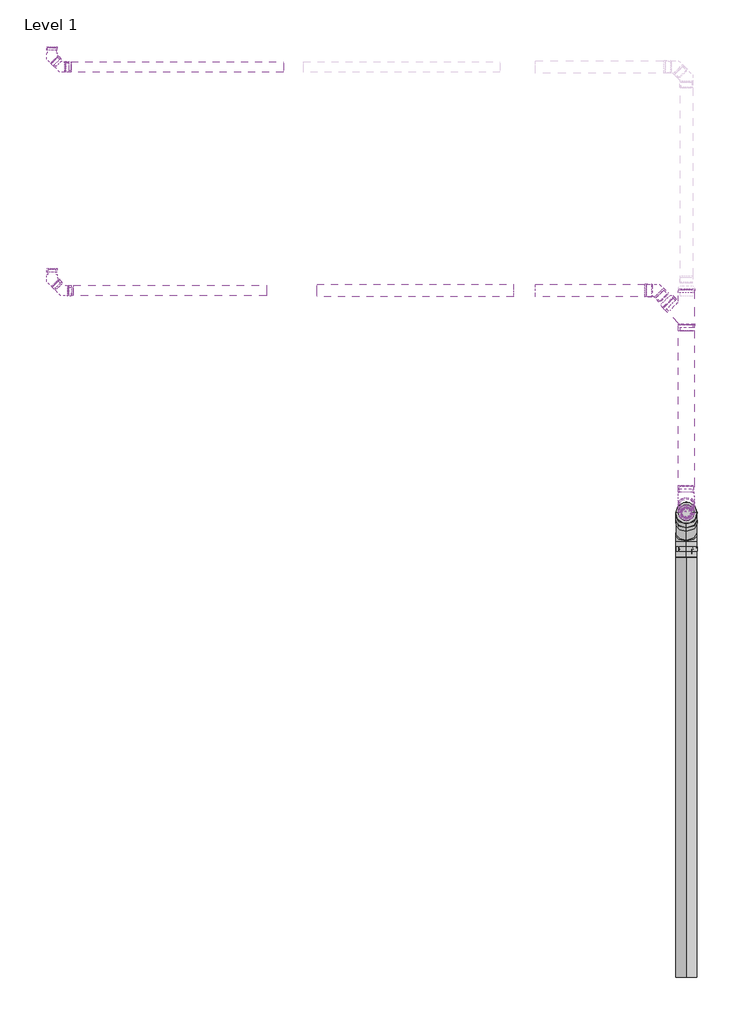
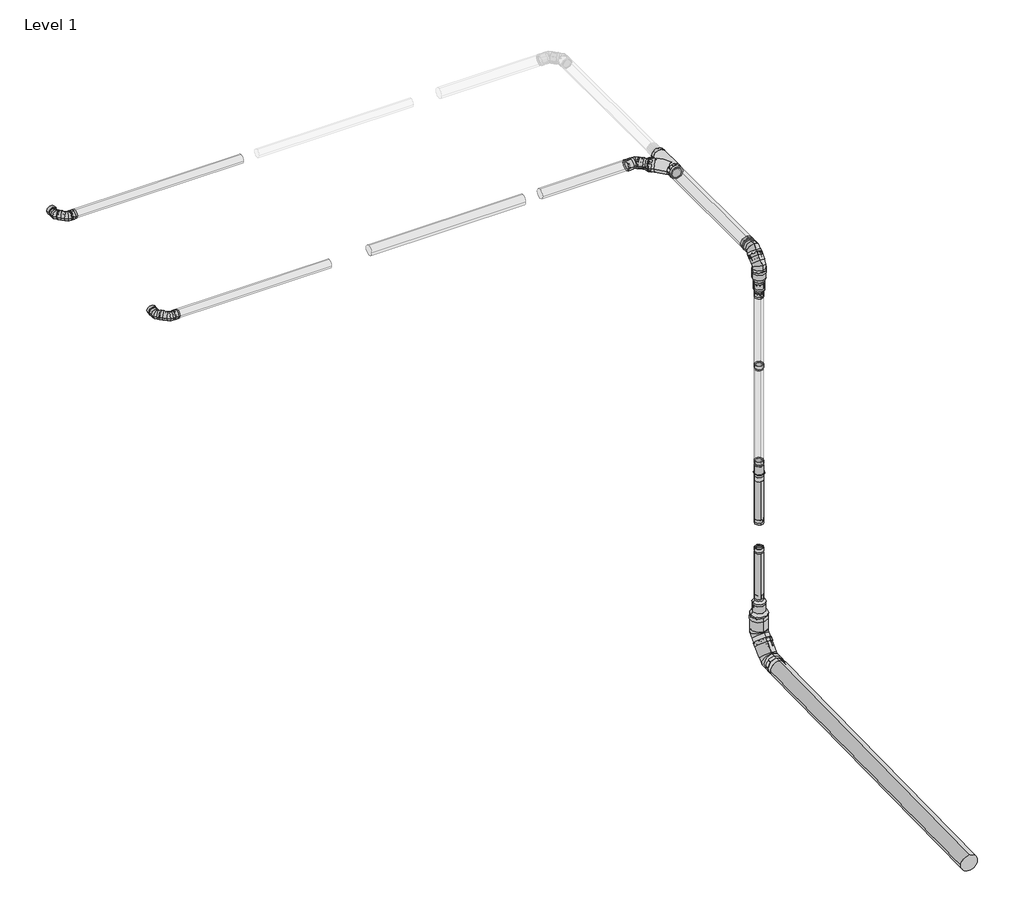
# One storey, part 1 of 4: 71 pipe fittings, 10 pipe segments.
"""IFC4 building model written with IfcOpenShell, lengths in millimetres."""

from ifc_helpers import new_model, si_unit, point, frame, frame_2d, origin, place, context, project, spatial, circle_curve, trimmed, segment, composite_curve, outline, extrude, transform, mapped, element, save
from components import double_bend_3e9cfc50, double_bend_64b3920a, double_bend_6fd856f4, equal_f502bca4, std_98267aa1, std_b06a406c, std_nested_0b312e5a, std_nested_a7162979, std_nested_457d7e35, std_nested_42e1da43, std_nested_bf630df5, std_nested_ff61fb87, std_nested_46ab66b3, std_nested_90d89c33, std_nested_0b754541, std_nested_c6ab956b, std_nested_eab692b6, std_nested_f8058470, std_nested_a1955cf2, std_nested_11fffc4d, std_nested_b89ce39c, std_nested_ddf6da25, std_nested_2c747ea0, std_nested_3dcc5080, std_nested_d6aa968b, std_nested_bd9adc5b, std_nested_d6c17223, std_nested_c8d892e3, std_nested_4c6f7b31, std_nested_5f0271a8, std_nested_e47e38a7, std_nested_9446fb41, std_nested_f2eee662, std_nested_7e47c5b0, std_nested_4907b57b, std_nested_7b649233, std_nested_dd37de27, with_clamp_eb68ef93

model = new_model("IFC4")

# Units and contexts
model_context = context("Model", 3, world=origin())
ifc_project = project(units=[si_unit("LENGTHUNIT", "METRE", prefix="MILLI")], contexts=[model_context])

# Site, building, storey
site = spatial("IfcSite", under=ifc_project)
building = spatial("IfcBuilding", under=site)
storey = spatial("IfcBuildingStorey", under=building, Name="Level 1", Elevation=0.0)

# Pipe fittings
placement = place(None, origin())
double_bend_shape = double_bend_3e9cfc50(model_context)
element("IfcPipeFitting", 1, ObjectType="PIF_ST_UN_GM-X compound pipe multi-bend_ACO : double bend", at=placement, inside=storey, context=model_context, shape_type="MappedRepresentation", body=[
    mapped(double_bend_shape, transform((-17814.684142, 5223.6615366, 6367.4522786), x_axis=(0.0, -1.0, 0.0), y_axis=(1.0, 0.0, 0.0), z_axis=(0.0, 0.0, 1.0))),
])
double_bend_2_shape = double_bend_64b3920a(model_context)
element("IfcPipeFitting", 2, ObjectType="PIF_ST_UN_GM-X compound pipe multi-bend_ACO : double bend", at=placement, inside=storey, context=model_context, shape_type="MappedRepresentation", body=[
    mapped(double_bend_2_shape, transform((-17814.684142, 2334.1079251, 6367.4522786), x_axis=(0.0, -1.0, 0.0), y_axis=(1.0, 0.0, 0.0), z_axis=(0.0, 0.0, 1.0))),
])
double_bend_3_shape = double_bend_6fd856f4(model_context)
element("IfcPipeFitting", 3, ObjectType="PIF_ST_UN_GM-X compound pipe multi-bend_ACO : double bend", at=placement, inside=storey, context=model_context, shape_type="MappedRepresentation", body=[
    mapped(double_bend_3_shape, transform((-9614.684142, -535.228078, -500.0), x_axis=(0.0, 0.0, -1.0), y_axis=(0.0, -1.0, 0.0), z_axis=(-1.0, 0.0, 0.0))),
])
equal_shape = equal_f502bca4(model_context)
element("IfcPipeFitting", 4, ObjectType="PIF_ST_UN_GM-X compound pipe multi-tee_ACO : equal", at=placement, inside=storey, context=model_context, shape_type="MappedRepresentation", body=[
    mapped(equal_shape, transform((-9614.684142, 1952.2702632, 6367.4522786), x_axis=(0.0, 1.0, 0.0), y_axis=(-1.0, 0.0, 0.0), z_axis=(0.0, 0.0, 1.0))),
])
std_shape = std_98267aa1(model_context)
element("IfcPipeFitting", 5, ObjectType="PIF_ST_UN_GM-X compound pipe multi-optimiser (transition)_ACO : std", at=placement, inside=storey, context=model_context, shape_type="MappedRepresentation", body=[
    mapped(std_shape, transform((-9614.684142, -535.228078, 5629.2270551), x_axis=(0.0, 0.0, 1.0), y_axis=(1.0, 0.0, 0.0), z_axis=(0.0, 1.0, 0.0))),
])
std_2_shape = std_b06a406c(model_context)
element("IfcPipeFitting", 6, ObjectType="PIF_ST_UN_GM-X compound pipe down-pipe (union)_ACO : std", at=placement, inside=storey, context=model_context, shape_type="MappedRepresentation", body=[
    mapped(std_2_shape, transform((-9614.684142, -535.228078, 2703.7674915), x_axis=(0.0, 0.0, 1.0), y_axis=(-1.0, 0.0, 0.0), z_axis=(0.0, -1.0, 0.0))),
])
std_nested_shape = std_nested_0b312e5a(model_context)
element("IfcPipeFitting", 7, ObjectType="ZZZ_do not use_PIF_GEN_WPB_GM-X (compound) pipe seal_ACO : std (nested)", at=placement, inside=storey, context=model_context, shape_type="MappedRepresentation", body=[
    mapped(std_nested_shape, transform((-9614.684142, -1105.7594865, -509.9586628), x_axis=(0.0, 0.017452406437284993, -0.9998476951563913), y_axis=(1.0000000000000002, 0.0, 0.0), z_axis=(0.0, -0.9998476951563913, -0.017452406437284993))),
])
std_nested_2_shape = std_nested_a7162979(model_context)
element("IfcPipeFitting", 8, ObjectType="ZZZ_do not use_PIF_GEN_WPB_GM-X (compound) pipe seal_ACO : std (nested)", at=placement, inside=storey, context=model_context, shape_type="MappedRepresentation", body=[
    mapped(std_nested_2_shape, transform((-9614.684142, -535.228078, 85.6183164), x_axis=(0.0, -1.0, 0.0), y_axis=(1.0, 0.0, 0.0), z_axis=(0.0, 0.0, 1.0))),
])
element("IfcPipeFitting", 9, ObjectType="ZZZ_do not use_PIF_GEN_WPB_GM-X (compound) pipe seal_ACO : std (nested)", at=placement, inside=storey, context=model_context, shape_type="MappedRepresentation", body=[
    mapped(std_nested_2_shape, transform((-9614.684142, -639.102831, -303.2854002), x_axis=(0.0, -0.7132504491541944, 0.7009092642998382), y_axis=(1.0000000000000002, 0.0, 0.0), z_axis=(0.0, 0.7009092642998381, 0.7132504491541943))),
])
std_nested_3_shape = std_nested_457d7e35(model_context)
element("IfcPipeFitting", 10, ObjectType="ZZZ_do not use_PIF_GEN_WPB_GM-X (compound) pipe seal_ACO : std (nested)", at=placement, inside=storey, context=model_context, shape_type="MappedRepresentation", body=[
    mapped(std_nested_3_shape, transform((-17564.8191349, 5223.6615366, 6367.4522786), x_axis=(0.0, -1.0, 0.0), y_axis=(0.0, 0.0, -1.0), z_axis=(1.0, 0.0, 0.0))),
])
element("IfcPipeFitting", 11, ObjectType="ZZZ_do not use_PIF_GEN_WPB_GM-X (compound) pipe seal_ACO : std (nested)", at=placement, inside=storey, context=model_context, shape_type="MappedRepresentation", body=[
    mapped(std_nested_3_shape, transform((-9614.684142, -535.228078, 4373.7890494), x_axis=(1.0, 0.0, 0.0), y_axis=(0.0, -1.0, 0.0), z_axis=(0.0, 0.0, -1.0))),
])
element("IfcPipeFitting", 12, ObjectType="ZZZ_do not use_PIF_GEN_WPB_GM-X (compound) pipe seal_ACO : std (nested)", at=placement, inside=storey, context=model_context, shape_type="MappedRepresentation", body=[
    mapped(std_nested_3_shape, transform((-9614.684142, -535.228078, 2443.7674915), x_axis=(-1.0, 0.0, 0.0), y_axis=(0.0, 1.0, 0.0), z_axis=(0.0, 0.0, -1.0))),
])
element("IfcPipeFitting", 13, ObjectType="ZZZ_do not use_PIF_GEN_WPB_GM-X (compound) pipe seal_ACO : std (nested)", at=placement, inside=storey, context=model_context, shape_type="MappedRepresentation", body=[
    mapped(std_nested_3_shape, transform((-9614.684142, -535.228078, 1180.0371081), x_axis=(1.0, 0.0, 0.0), y_axis=(0.0, -1.0, 0.0), z_axis=(0.0, 0.0, -1.0))),
])
element("IfcPipeFitting", 14, ObjectType="ZZZ_do not use_PIF_GEN_WPB_GM-X (compound) pipe seal_ACO : std (nested)", at=placement, inside=storey, context=model_context, shape_type="MappedRepresentation", body=[
    mapped(std_nested_3_shape, transform((-9614.684142, -535.228078, 5629.2270551), x_axis=(0.0, -1.0, 0.0), y_axis=(-1.0, 0.0, 0.0), z_axis=(0.0, 0.0, -1.0))),
])
std_nested_4_shape = std_nested_42e1da43(model_context)
element("IfcPipeFitting", 15, ObjectType="ZZZ_do not use_PIF_GEN_WPB_GM-X (compound) pipe seal_ACO : std (nested)", at=placement, inside=storey, context=model_context, shape_type="MappedRepresentation", body=[
    mapped(std_nested_4_shape, transform((-17814.684142, 5473.5265437, 6367.4522786), x_axis=(1.0, 0.0, 0.0), y_axis=(0.0, 0.0, -1.0), z_axis=(0.0, 1.0, 0.0))),
])
element("IfcPipeFitting", 16, ObjectType="ZZZ_do not use_PIF_GEN_WPB_GM-X (compound) pipe seal_ACO : std (nested)", at=placement, inside=storey, context=model_context, shape_type="MappedRepresentation", body=[
    mapped(std_nested_4_shape, transform((-17776.5003758, 5311.3427775, 6367.4522786), x_axis=(0.707106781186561, 0.707106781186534, 0.0), y_axis=(0.0, 0.0, -1.0), z_axis=(-0.707106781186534, 0.707106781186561, 0.0))),
])
element("IfcPipeFitting", 17, ObjectType="ZZZ_do not use_PIF_GEN_WPB_GM-X (compound) pipe seal_ACO : std (nested)", at=placement, inside=storey, context=model_context, shape_type="MappedRepresentation", body=[
    mapped(std_nested_4_shape, transform((-9614.684142, -535.228078, 2773.7674915), x_axis=(1.0, 0.0, 0.0), y_axis=(0.0, 1.0, 0.0), z_axis=(0.0, 0.0, 1.0))),
])
element("IfcPipeFitting", 18, ObjectType="ZZZ_do not use_PIF_GEN_WPB_GM-X (compound) pipe seal_ACO : std (nested)", at=placement, inside=storey, context=model_context, shape_type="MappedRepresentation", body=[
    mapped(std_nested_4_shape, transform((-9614.684142, -535.228078, 1760.0371081), x_axis=(-1.0, 0.0, 0.0), y_axis=(0.0, -1.0, 0.0), z_axis=(0.0, 0.0, 1.0))),
])
std_nested_5_shape = std_nested_bf630df5(model_context)
element("IfcPipeFitting", 19, ObjectType="ZZZ_do not use_PIF_ST_WPB_GM-X compound pipe clamp_ACO : std (nested)", at=placement, inside=storey, context=model_context, shape_type="MappedRepresentation", body=[
    mapped(std_nested_5_shape, transform((-17814.684142, 5473.5265437, 6367.4522786), x_axis=(1.0, 0.0, 0.0), y_axis=(0.0, 0.0, -1.0), z_axis=(0.0, 1.0, 0.0))),
])
element("IfcPipeFitting", 20, ObjectType="ZZZ_do not use_PIF_ST_WPB_GM-X compound pipe clamp_ACO : std (nested)", at=placement, inside=storey, context=model_context, shape_type="MappedRepresentation", body=[
    mapped(std_nested_5_shape, transform((-17776.5003758, 5311.3427775, 6367.4522786), x_axis=(0.707106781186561, 0.707106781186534, 0.0), y_axis=(0.0, 0.0, -1.0), z_axis=(-0.707106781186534, 0.707106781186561, 0.0))),
])
element("IfcPipeFitting", 21, ObjectType="ZZZ_do not use_PIF_ST_WPB_GM-X compound pipe clamp_ACO : std (nested)", at=placement, inside=storey, context=model_context, shape_type="MappedRepresentation", body=[
    mapped(std_nested_5_shape, transform((-9614.684142, -535.228078, 2773.7674915), x_axis=(1.0, 0.0, 0.0), y_axis=(0.0, 1.0, 0.0), z_axis=(0.0, 0.0, 1.0))),
])
element("IfcPipeFitting", 22, ObjectType="ZZZ_do not use_PIF_ST_WPB_GM-X compound pipe clamp_ACO : std (nested)", at=placement, inside=storey, context=model_context, shape_type="MappedRepresentation", body=[
    mapped(std_nested_5_shape, transform((-9614.684142, -535.228078, 1760.0371081), x_axis=(-1.0, 0.0, 0.0), y_axis=(0.0, -1.0, 0.0), z_axis=(0.0, 0.0, 1.0))),
])
std_nested_6_shape = std_nested_ff61fb87(model_context)
element("IfcPipeFitting", 23, ObjectType="ZZZ_do not use_PIF_ST_WPB_GM-X compound pipe clamp_ACO : std (nested)", at=placement, inside=storey, context=model_context, shape_type="MappedRepresentation", body=[
    mapped(std_nested_6_shape, transform((-17564.8191349, 5223.6615366, 6367.4522786), x_axis=(0.0, -1.0, 0.0), y_axis=(0.0, 0.0, -1.0), z_axis=(1.0, 0.0, 0.0))),
])
element("IfcPipeFitting", 24, ObjectType="ZZZ_do not use_PIF_ST_WPB_GM-X compound pipe clamp_ACO : std (nested)", at=placement, inside=storey, context=model_context, shape_type="MappedRepresentation", body=[
    mapped(std_nested_6_shape, transform((-9614.684142, -535.228078, 4373.7890494), x_axis=(1.0, 0.0, 0.0), y_axis=(0.0, -1.0, 0.0), z_axis=(0.0, 0.0, -1.0))),
])
element("IfcPipeFitting", 25, ObjectType="ZZZ_do not use_PIF_ST_WPB_GM-X compound pipe clamp_ACO : std (nested)", at=placement, inside=storey, context=model_context, shape_type="MappedRepresentation", body=[
    mapped(std_nested_6_shape, transform((-9614.684142, -535.228078, 1180.0371081), x_axis=(1.0, 0.0, 0.0), y_axis=(0.0, -1.0, 0.0), z_axis=(0.0, 0.0, -1.0))),
])
element("IfcPipeFitting", 26, ObjectType="ZZZ_do not use_PIF_ST_WPB_GM-X compound pipe clamp_ACO : std (nested)", at=placement, inside=storey, context=model_context, shape_type="MappedRepresentation", body=[
    mapped(std_nested_6_shape, transform((-9614.684142, -535.228078, 5629.2270551), x_axis=(0.0, -1.0, 0.0), y_axis=(-1.0, 0.0, 0.0), z_axis=(0.0, 0.0, -1.0))),
])
std_nested_7_shape = std_nested_46ab66b3(model_context)
element("IfcPipeFitting", 27, ObjectType="ZZZ_do not use_PIF_GEN_WPB_GM-X (compound) pipe seal_ACO : std (nested)", at=placement, inside=storey, context=model_context, shape_type="MappedRepresentation", body=[
    mapped(std_nested_7_shape, transform((-10131.5218038, 2334.1079251, 6367.4522786), x_axis=(0.0, 1.0, 0.0), y_axis=(0.0, 0.0, -1.0000000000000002), z_axis=(-1.0, 0.0, 0.0))),
])
element("IfcPipeFitting", 28, ObjectType="ZZZ_do not use_PIF_GEN_WPB_GM-X (compound) pipe seal_ACO : std (nested)", at=placement, inside=storey, context=model_context, shape_type="MappedRepresentation", body=[
    mapped(std_nested_7_shape, transform((-9614.684142, -535.228078, 5869.2270551), x_axis=(-1.0, 0.0, 0.0), y_axis=(0.0, -1.0, 0.0), z_axis=(0.0, 0.0, 1.0))),
])
element("IfcPipeFitting", 29, ObjectType="ZZZ_do not use_PIF_GEN_WPB_GM-X (compound) pipe seal_ACO : std (nested)", at=placement, inside=storey, context=model_context, shape_type="MappedRepresentation", body=[
    mapped(std_nested_7_shape, transform((-9954.0953969, 2291.6815182, 6367.4522786), x_axis=(0.7071067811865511, 0.7071067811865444, 0.0), y_axis=(0.0, 0.0, -1.0000000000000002), z_axis=(-0.7071067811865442, 0.707106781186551, 0.0))),
])
std_nested_8_shape = std_nested_90d89c33(model_context)
element("IfcPipeFitting", 30, ObjectType="ZZZ_do not use_PIF_ST_WPB_GM-X compound pipe clamp_ACO : std (nested)", at=placement, inside=storey, context=model_context, shape_type="MappedRepresentation", body=[
    mapped(std_nested_8_shape, transform((-10131.5218038, 2334.1079251, 6367.4522786), x_axis=(0.0, 1.0, 0.0), y_axis=(0.0, 0.0, -1.0000000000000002), z_axis=(-1.0, 0.0, 0.0))),
])
element("IfcPipeFitting", 31, ObjectType="ZZZ_do not use_PIF_ST_WPB_GM-X compound pipe clamp_ACO : std (nested)", at=placement, inside=storey, context=model_context, shape_type="MappedRepresentation", body=[
    mapped(std_nested_8_shape, transform((-9614.684142, -535.228078, 5869.2270551), x_axis=(-1.0, 0.0, 0.0), y_axis=(0.0, -1.0, 0.0), z_axis=(0.0, 0.0, 1.0))),
])
element("IfcPipeFitting", 32, ObjectType="ZZZ_do not use_PIF_ST_WPB_GM-X compound pipe clamp_ACO : std (nested)", at=placement, inside=storey, context=model_context, shape_type="MappedRepresentation", body=[
    mapped(std_nested_8_shape, transform((-9954.0953969, 2291.6815182, 6367.4522786), x_axis=(0.7071067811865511, 0.7071067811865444, 0.0), y_axis=(0.0, 0.0, -1.0000000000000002), z_axis=(-0.7071067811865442, 0.707106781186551, 0.0))),
])
std_nested_9_shape = std_nested_0b754541(model_context)
element("IfcPipeFitting", 33, ObjectType="ZZZ_do not use_PIF_ST_WPB_GM-X compound pipe bend_ACO : std (nested)", at=placement, inside=storey, context=model_context, shape_type="MappedRepresentation", body=[
    mapped(std_nested_9_shape, transform((-9996.5218038, 2334.1079251, 6367.4522786), x_axis=(-0.7071067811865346, 0.7071067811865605, 0.0), y_axis=(-0.7071067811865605, -0.7071067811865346, 0.0), z_axis=(0.0, 0.0, 1.0))),
])
std_nested_10_shape = std_nested_c6ab956b(model_context)
element("IfcPipeFitting", 34, ObjectType="ZZZ_do not use_PIF_ST_WPB_GM-X compound pipe bend_ACO : std (nested)", at=placement, inside=storey, context=model_context, shape_type="MappedRepresentation", body=[
    mapped(std_nested_10_shape, transform((-17814.684142, 5349.5265437, 6367.4522786), x_axis=(0.0, -1.0, 0.0), y_axis=(1.0, 0.0, 0.0), z_axis=(0.0, 0.0, 1.0))),
])
std_nested_11_shape = std_nested_eab692b6(model_context)
element("IfcPipeFitting", 35, ObjectType="ZZZ_do not use_PIF_ST_WPB_GM-X compound pipe bend_ACO : std (nested)", at=placement, inside=storey, context=model_context, shape_type="MappedRepresentation", body=[
    mapped(std_nested_11_shape, transform((-17688.8191349, 5223.6615366, 6367.4522786), x_axis=(0.7071067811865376, -0.7071067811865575, 0.0), y_axis=(0.7071067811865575, 0.7071067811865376, 0.0), z_axis=(0.0, 0.0, 1.0))),
])
std_nested_12_shape = std_nested_f8058470(model_context)
element("IfcPipeFitting", 36, ObjectType="ZZZ_do not use_PIF_GEN_WPB_GM-X (compound) pipe seal_ACO : std (nested)", at=placement, inside=storey, context=model_context, shape_type="MappedRepresentation", body=[
    mapped(std_nested_12_shape, transform((-17814.684142, 2607.2313628, 6367.4522786), x_axis=(1.0, 0.0, 0.0), y_axis=(0.0, 0.0, -1.0), z_axis=(0.0, 1.0, 0.0))),
])
element("IfcPipeFitting", 37, ObjectType="ZZZ_do not use_PIF_GEN_WPB_GM-X (compound) pipe seal_ACO : std (nested)", at=placement, inside=storey, context=model_context, shape_type="MappedRepresentation", body=[
    mapped(std_nested_12_shape, transform((-17764.3381391, 2426.38536, 6367.4522786), x_axis=(0.707106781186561, 0.707106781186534, 0.0), y_axis=(0.0, 0.0, -1.0), z_axis=(-0.707106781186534, 0.707106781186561, 0.0))),
])
element("IfcPipeFitting", 38, ObjectType="ZZZ_do not use_PIF_ST_WPB_GM-X compound pipe clamp_ACO : std (nested)", at=placement, inside=storey, context=model_context, shape_type="MappedRepresentation", body=[
    mapped(std_nested_5_shape, transform((-17814.684142, 2607.2313628, 6367.4522786), x_axis=(1.0, 0.0, 0.0), y_axis=(0.0, 0.0, -1.0), z_axis=(0.0, 1.0, 0.0))),
])
element("IfcPipeFitting", 39, ObjectType="ZZZ_do not use_PIF_ST_WPB_GM-X compound pipe clamp_ACO : std (nested)", at=placement, inside=storey, context=model_context, shape_type="MappedRepresentation", body=[
    mapped(std_nested_5_shape, transform((-17764.3381391, 2426.38536, 6367.4522786), x_axis=(0.707106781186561, 0.707106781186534, 0.0), y_axis=(0.0, 0.0, -1.0), z_axis=(-0.707106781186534, 0.707106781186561, 0.0))),
])
std_nested_13_shape = std_nested_a1955cf2(model_context)
element("IfcPipeFitting", 40, ObjectType="ZZZ_do not use_PIF_GEN_WPB_GM-X (compound) pipe seal_ACO : std (nested)", at=placement, inside=storey, context=model_context, shape_type="MappedRepresentation", body=[
    mapped(std_nested_13_shape, transform((-17540.8607042, 2334.1079251, 6367.4522786), x_axis=(0.0, -1.0, 0.0), y_axis=(0.0, 0.0, -1.0), z_axis=(1.0, 0.0, 0.0))),
])
std_nested_14_shape = std_nested_11fffc4d(model_context)
element("IfcPipeFitting", 41, ObjectType="ZZZ_do not use_PIF_ST_WPB_GM-X compound pipe clamp_ACO : std (nested)", at=placement, inside=storey, context=model_context, shape_type="MappedRepresentation", body=[
    mapped(std_nested_14_shape, transform((-17540.8607042, 2334.1079251, 6367.4522786), x_axis=(0.0, -1.0, 0.0), y_axis=(0.0, 0.0, -1.0), z_axis=(1.0, 0.0, 0.0))),
])
std_nested_15_shape = std_nested_b89ce39c(model_context)
element("IfcPipeFitting", 42, ObjectType="ZZZ_do not use_PIF_ST_WPB_GM-X compound pipe bend_ACO : std (nested)", at=placement, inside=storey, context=model_context, shape_type="MappedRepresentation", body=[
    mapped(std_nested_15_shape, transform((-17814.684142, 2476.7313628, 6367.4522786), x_axis=(0.0, -1.0, 0.0), y_axis=(1.0, 0.0, 0.0), z_axis=(0.0, 0.0, 1.0))),
])
std_nested_16_shape = std_nested_ddf6da25(model_context)
element("IfcPipeFitting", 43, ObjectType="ZZZ_do not use_PIF_ST_WPB_GM-X compound pipe bend_ACO : std (nested)", at=placement, inside=storey, context=model_context, shape_type="MappedRepresentation", body=[
    mapped(std_nested_16_shape, transform((-17672.0607042, 2334.1079251, 6367.4522786), x_axis=(0.7071067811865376, -0.7071067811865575, 0.0), y_axis=(0.7071067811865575, 0.7071067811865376, 0.0), z_axis=(0.0, 0.0, 1.0))),
])
std_nested_17_shape = std_nested_2c747ea0(model_context)
element("IfcPipeFitting", 44, ObjectType="ZZZ_do not use_PIF_ST_WPB_GM-X compound pipe bend_ACO : std (nested)", at=placement, inside=storey, context=model_context, shape_type="MappedRepresentation", body=[
    mapped(std_nested_17_shape, transform((-9614.684142, -357.6028546, 6367.4522786), x_axis=(0.0, -1.0, 0.0), y_axis=(0.0, 0.0, -1.0), z_axis=(1.0, 0.0, 0.0))),
])
std_nested_18_shape = std_nested_3dcc5080(model_context)
element("IfcPipeFitting", 45, ObjectType="ZZZ_do not use_PIF_GEN_WPB_GM-X (compound) pipe seal_ACO : std (nested)", at=placement, inside=storey, context=model_context, shape_type="MappedRepresentation", body=[
    mapped(std_nested_18_shape, transform((-9614.684142, 2342.2702632, 6367.4522786), x_axis=(1.0, 0.0, 0.0), y_axis=(0.0, 0.0, -1.0), z_axis=(0.0, 1.0, 0.0))),
])
element("IfcPipeFitting", 46, ObjectType="ZZZ_do not use_PIF_GEN_WPB_GM-X (compound) pipe seal_ACO : std (nested)", at=placement, inside=storey, context=model_context, shape_type="MappedRepresentation", body=[
    mapped(std_nested_18_shape, transform((-9840.9583119, 2178.5444332, 6367.4522786), x_axis=(0.7071067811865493, 0.7071067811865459, 0.0), y_axis=(0.0, 0.0, -1.0000000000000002), z_axis=(-0.7071067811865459, 0.7071067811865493, 0.0))),
])
element("IfcPipeFitting", 47, ObjectType="ZZZ_do not use_PIF_GEN_WPB_GM-X (compound) pipe seal_ACO : std (nested)", at=placement, inside=storey, context=model_context, shape_type="MappedRepresentation", body=[
    mapped(std_nested_18_shape, transform((-9614.684142, -192.0028546, 6367.4522786), x_axis=(0.0, 0.0, -1.0), y_axis=(-1.0, 0.0, 0.0), z_axis=(0.0, 1.0, 0.0))),
])
element("IfcPipeFitting", 48, ObjectType="ZZZ_do not use_PIF_GEN_WPB_GM-X (compound) pipe seal_ACO : std (nested)", at=placement, inside=storey, context=model_context, shape_type="MappedRepresentation", body=[
    mapped(std_nested_18_shape, transform((-9614.684142, -418.131195, 6306.9239381), x_axis=(0.0, 0.707106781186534, -0.707106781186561), y_axis=(-1.0, 0.0, 0.0), z_axis=(0.0, 0.707106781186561, 0.707106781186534))),
])
element("IfcPipeFitting", 49, ObjectType="ZZZ_do not use_PIF_GEN_WPB_GM-X (compound) pipe seal_ACO : std (nested)", at=placement, inside=storey, context=model_context, shape_type="MappedRepresentation", body=[
    mapped(std_nested_18_shape, transform((-9614.684142, -535.228078, 6104.2270551), x_axis=(-1.0, 0.0, 0.0), y_axis=(0.0, -1.0, 0.0), z_axis=(0.0, 0.0, 1.0))),
])
std_nested_19_shape = std_nested_d6aa968b(model_context)
element("IfcPipeFitting", 50, ObjectType="ZZZ_do not use_PIF_ST_WPB_GM-X compound pipe clamp_ACO : std (nested)", at=placement, inside=storey, context=model_context, shape_type="MappedRepresentation", body=[
    mapped(std_nested_19_shape, transform((-9614.684142, 2342.2702632, 6367.4522786), x_axis=(1.0, 0.0, 0.0), y_axis=(0.0, 0.0, -1.0), z_axis=(0.0, 1.0, 0.0))),
])
element("IfcPipeFitting", 51, ObjectType="ZZZ_do not use_PIF_ST_WPB_GM-X compound pipe clamp_ACO : std (nested)", at=placement, inside=storey, context=model_context, shape_type="MappedRepresentation", body=[
    mapped(std_nested_19_shape, transform((-9840.9583119, 2178.5444332, 6367.4522786), x_axis=(0.7071067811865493, 0.7071067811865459, 0.0), y_axis=(0.0, 0.0, -1.0000000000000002), z_axis=(-0.7071067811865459, 0.7071067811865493, 0.0))),
])
element("IfcPipeFitting", 52, ObjectType="ZZZ_do not use_PIF_ST_WPB_GM-X compound pipe clamp_ACO : std (nested)", at=placement, inside=storey, context=model_context, shape_type="MappedRepresentation", body=[
    mapped(std_nested_19_shape, transform((-9614.684142, -192.0028546, 6367.4522786), x_axis=(0.0, 0.0, -1.0), y_axis=(-1.0, 0.0, 0.0), z_axis=(0.0, 1.0, 0.0))),
])
element("IfcPipeFitting", 53, ObjectType="ZZZ_do not use_PIF_ST_WPB_GM-X compound pipe clamp_ACO : std (nested)", at=placement, inside=storey, context=model_context, shape_type="MappedRepresentation", body=[
    mapped(std_nested_19_shape, transform((-9614.684142, -418.131195, 6306.9239381), x_axis=(0.0, 0.707106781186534, -0.707106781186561), y_axis=(-1.0, 0.0, 0.0), z_axis=(0.0, 0.707106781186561, 0.707106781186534))),
])
element("IfcPipeFitting", 54, ObjectType="ZZZ_do not use_PIF_ST_WPB_GM-X compound pipe clamp_ACO : std (nested)", at=placement, inside=storey, context=model_context, shape_type="MappedRepresentation", body=[
    mapped(std_nested_19_shape, transform((-9614.684142, -535.228078, 6104.2270551), x_axis=(-1.0, 0.0, 0.0), y_axis=(0.0, -1.0, 0.0), z_axis=(0.0, 0.0, 1.0))),
])
std_nested_20_shape = std_nested_bd9adc5b(model_context)
element("IfcPipeFitting", 55, ObjectType="ZZZ_do not use_PIF_ST_WPB_GM-X compound pipe bend_ACO : std (nested)", at=placement, inside=storey, context=model_context, shape_type="MappedRepresentation", body=[
    mapped(std_nested_20_shape, transform((-9614.684142, -535.228078, 6189.8270551), x_axis=(0.0, -0.7071067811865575, -0.7071067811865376), y_axis=(0.0, 0.7071067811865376, -0.7071067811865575), z_axis=(1.0, 0.0, 0.0))),
])
std_nested_21_shape = std_nested_d6c17223(model_context)
element("IfcPipeFitting", 56, ObjectType="ZZZ_do not use_PIF_ST_WPB_GM-X compound pipe bend_ACO : std (nested)", at=placement, inside=storey, context=model_context, shape_type="MappedRepresentation", body=[
    mapped(std_nested_21_shape, transform((-9614.684142, -535.228078, -197.5816836), x_axis=(0.0, 0.0, -1.0), y_axis=(0.0, -1.0, 0.0), z_axis=(-1.0, 0.0, 0.0))),
])
element("IfcPipeFitting", 57, ObjectType="ZZZ_do not use_PIF_ST_WPB_GM-X compound pipe bend_ACO : std (nested)", at=placement, inside=storey, context=model_context, shape_type="MappedRepresentation", body=[
    mapped(std_nested_21_shape, transform((-9614.684142, -837.6003346, -505.2779274), x_axis=(0.0, -0.7009092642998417, -0.7132504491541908), y_axis=(0.0, -0.7132504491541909, 0.7009092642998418), z_axis=(-1.0000000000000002, 0.0, 0.0))),
])
std_nested_22_shape = std_nested_c8d892e3(model_context)
element("IfcPipeFitting", 58, ObjectType="ZZZ_do not use_PIF_ST_WPB_GM-X compound pipe clamp_ACO : std (nested)", at=placement, inside=storey, context=model_context, shape_type="MappedRepresentation", body=[
    mapped(std_nested_22_shape, transform((-9614.684142, -535.228078, 85.6183164), x_axis=(0.0, -1.0, 0.0), y_axis=(1.0, 0.0, 0.0), z_axis=(0.0, 0.0, 1.0))),
])
element("IfcPipeFitting", 59, ObjectType="ZZZ_do not use_PIF_ST_WPB_GM-X compound pipe clamp_ACO : std (nested)", at=placement, inside=storey, context=model_context, shape_type="MappedRepresentation", body=[
    mapped(std_nested_22_shape, transform((-9614.684142, -639.102831, -303.2854002), x_axis=(0.0, -0.7132504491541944, 0.7009092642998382), y_axis=(1.0000000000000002, 0.0, 0.0), z_axis=(0.0, 0.7009092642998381, 0.7132504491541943))),
])
std_nested_23_shape = std_nested_4c6f7b31(model_context)
element("IfcPipeFitting", 60, ObjectType="ZZZ_do not use_PIF_ST_WPB_GM-X compound pipe clamp_ACO : std (nested)", at=placement, inside=storey, context=model_context, shape_type="MappedRepresentation", body=[
    mapped(std_nested_23_shape, transform((-9614.684142, -1105.7594865, -509.9586628), x_axis=(0.0, 0.017452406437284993, -0.9998476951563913), y_axis=(1.0000000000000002, 0.0, 0.0), z_axis=(0.0, -0.9998476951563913, -0.017452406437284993))),
])
element("IfcPipeFitting", 61, ObjectType="ZZZ_do not use_PIF_GEN_WPB_GM-X (compound) pipe seal_ACO : std (nested)", at=placement, inside=storey, context=model_context, shape_type="MappedRepresentation", body=[
    mapped(std_nested_18_shape, transform((-9614.684142, -535.228078, 290.6183164), x_axis=(1.0, 0.0, 0.0), y_axis=(0.0, 1.0, 0.0), z_axis=(0.0, 0.0, 1.0))),
])
element("IfcPipeFitting", 62, ObjectType="ZZZ_do not use_PIF_GEN_WPB_GM-X (compound) pipe seal_ACO : std (nested)", at=placement, inside=storey, context=model_context, shape_type="MappedRepresentation", body=[
    mapped(std_nested_4_shape, transform((-9614.684142, -535.228078, 460.6183164), x_axis=(1.0, 0.0, 0.0), y_axis=(0.0, 1.0, 0.0), z_axis=(0.0, 0.0, 1.0))),
])
std_nested_24_shape = std_nested_5f0271a8(model_context)
element("IfcPipeFitting", 63, ObjectType="ZZZ_do not use_PIF_ST_WPB_GM-X compound pipe optimiser_ACO : std (nested)", at=placement, inside=storey, context=model_context, shape_type="MappedRepresentation", body=[
    mapped(std_nested_24_shape, transform((-9614.684142, -535.228078, 6024.2270551), x_axis=(0.0, 0.0, -1.0), y_axis=(-1.0, 0.0, 0.0), z_axis=(0.0, 1.0, 0.0))),
])
std_nested_25_shape = std_nested_e47e38a7(model_context)
element("IfcPipeFitting", 64, ObjectType="ZZZ_do not use_PIF_ST_WPB_GM-X compound pipe optimiser_ACO : std (nested)", at=placement, inside=storey, context=model_context, shape_type="MappedRepresentation", body=[
    mapped(std_nested_25_shape, transform((-9614.684142, -535.228078, 5794.2270551), x_axis=(0.0, 0.0, -1.0), y_axis=(-1.0, 0.0, 0.0), z_axis=(0.0, 1.0, 0.0))),
])
std_nested_26_shape = std_nested_9446fb41(model_context)
element("IfcPipeFitting", 65, ObjectType="ZZZ_do not use_PIF_GEN_WPB_GM-X (compound) pipe seal_ACO : std (nested)", at=placement, inside=storey, context=model_context, shape_type="MappedRepresentation", body=[
    mapped(std_nested_26_shape, transform((-9614.684142, 1812.2702632, 6367.4522786), x_axis=(0.0, 0.0, -1.0), y_axis=(1.0, 0.0, 0.0), z_axis=(0.0, -1.0, 0.0))),
])
std_nested_27_shape = std_nested_f2eee662(model_context)
element("IfcPipeFitting", 66, ObjectType="ZZZ_do not use_PIF_ST_WPB_GM-X compound pipe reducer_ACO : std (nested)", at=placement, inside=storey, context=model_context, shape_type="MappedRepresentation", body=[
    mapped(std_nested_27_shape, transform((-9614.684142, -535.228078, 210.6183164), x_axis=(0.0, 0.0, -1.0), y_axis=(-1.0, 0.0, 0.0), z_axis=(0.0, 1.0, 0.0))),
])
std_nested_28_shape = std_nested_7e47c5b0(model_context)
element("IfcPipeFitting", 67, ObjectType="ZZZ_do not use_PIF_ST_WPB_GM-X compound pipe reducer_ACO : std (nested)", at=placement, inside=storey, context=model_context, shape_type="MappedRepresentation", body=[
    mapped(std_nested_28_shape, transform((-9614.684142, -535.228078, -34.3816836), x_axis=(0.0, 0.0, -1.0), y_axis=(-1.0, 0.0, 0.0), z_axis=(0.0, 1.0, 0.0))),
])
std_nested_29_shape = std_nested_4907b57b(model_context)
element("IfcPipeFitting", 68, ObjectType="ZZZ_do not use_PIF_ST_WPB_GM-X compound pipe tee_ACO : std (nested)", at=placement, inside=storey, context=model_context, shape_type="MappedRepresentation", body=[
    mapped(std_nested_29_shape, transform((-9614.684142, 1952.2702632, 6367.4522786), x_axis=(0.0, 1.0, 0.0), y_axis=(-1.0, 0.0, 0.0), z_axis=(0.0, 0.0, 1.0))),
])
std_nested_30_shape = std_nested_7b649233(model_context)
element("IfcPipeFitting", 69, ObjectType="ZZZ_do not use_PIF_ST_WPB_GM-X compound pipe clamp_ACO : std (nested)", at=placement, inside=storey, context=model_context, shape_type="MappedRepresentation", body=[
    mapped(std_nested_30_shape, transform((-9614.684142, 1812.2702632, 6367.4522786), x_axis=(0.0, 0.0, -1.0), y_axis=(1.0, 0.0, 0.0), z_axis=(0.0, -1.0, 0.0))),
])
std_nested_31_shape = std_nested_dd37de27(model_context)
element("IfcPipeFitting", 70, ObjectType="ZZZ_do not use_PIF_ST_WPB_GM-X compound pipe reducer_ACO : std (nested)", at=placement, inside=storey, context=model_context, shape_type="MappedRepresentation", body=[
    mapped(std_nested_31_shape, transform((-9784.3897694, 2121.9758907, 6367.4522786), x_axis=(-0.7071067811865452, 0.70710678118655, 0.0), y_axis=(-0.7071067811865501, -0.7071067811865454, 0.0), z_axis=(0.0, 0.0, 1.0000000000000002))),
])
with_clamp_shape = with_clamp_eb68ef93(model_context)
element("IfcPipeFitting", 71, ObjectType="PIF_ST_UN_GM-X compound pipe pipe-end (union)_ACO : with clamp", at=placement, inside=storey, context=model_context, shape_type="MappedRepresentation", body=[
    mapped(with_clamp_shape, transform((-9614.684142, -535.228078, 4373.7890494), x_axis=(0.0, 0.0, -1.0), y_axis=(-1.0, 0.0, 0.0), z_axis=(0.0, 1.0, 0.0))),
])

# Pipe segments
element("IfcPipeSegment", 72, ObjectType="GM-X compound pipe", at=placement, inside=storey, context=model_context, shape_type="SweptSolid", body=[
    extrude(outline(composite_curve([segment(trimmed(circle_curve(frame_2d((6367.4522786, -9614.684142)), 102.0), [point((6367.4522786, -9716.684142))], [point((6265.4522786, -9614.684142))], False, "CARTESIAN"), True, "CONTINUOUS"), segment(trimmed(circle_curve(frame_2d((6367.4522786, -9614.684142)), 102.0), [point((6265.4522786, -9614.684142))], [point((6367.4522786, -9512.684142))], False, "CARTESIAN"), True, "CONTINUOUS"), segment(trimmed(circle_curve(frame_2d((6367.4522786, -9614.684142)), 102.0), [point((6367.4522786, -9512.684142))], [point((6469.4522786, -9614.684142))], False, "CARTESIAN"), True, "CONTINUOUS"), segment(trimmed(circle_curve(frame_2d((6367.4522786, -9614.684142)), 102.0), [point((6469.4522786, -9614.684142))], [point((6367.4522786, -9716.684142))], False, "CARTESIAN"), True, "CONTINUOUS")], self_intersect=False)), frame((0.0, -272.0028546, 0.0), z_axis=(0.0, 1.0, 0.0), x_axis=(0.0, 0.0, 1.0)), (0.0, 0.0, 1.0), 2084.2731178),
])
element("IfcPipeSegment", 73, ObjectType="GM-X compound pipe", at=placement, inside=storey, context=model_context, shape_type="SweptSolid", body=[
    extrude(outline(composite_curve([segment(trimmed(circle_curve(frame_2d((5223.6615366, 6367.4522786)), 67.0), [point((5290.6615366, 6367.4522786))], [point((5223.6615366, 6300.4522786))], False, "CARTESIAN"), True, "CONTINUOUS"), segment(trimmed(circle_curve(frame_2d((5223.6615366, 6367.4522786)), 67.0), [point((5223.6615366, 6300.4522786))], [point((5156.6615366, 6367.4522786))], False, "CARTESIAN"), True, "CONTINUOUS"), segment(trimmed(circle_curve(frame_2d((5223.6615366, 6367.4522786)), 67.0), [point((5156.6615366, 6367.4522786))], [point((5223.6615366, 6434.4522786))], False, "CARTESIAN"), True, "CONTINUOUS"), segment(trimmed(circle_curve(frame_2d((5223.6615366, 6367.4522786)), 67.0), [point((5223.6615366, 6434.4522786))], [point((5290.6615366, 6367.4522786))], False, "CARTESIAN"), True, "CONTINUOUS")], self_intersect=False)), frame((-17564.8191349, 0.0, 0.0), z_axis=(1.0, 0.0, 0.0), x_axis=(0.0, 1.0, 0.0)), (0.0, 0.0, 1.0), 2740.6482323),
])
element("IfcPipeSegment", 74, ObjectType="GM-X compound pipe", at=placement, inside=storey, context=model_context, shape_type="SweptSolid", body=[
    extrude(outline(composite_curve([segment(trimmed(circle_curve(frame_2d((2334.1079251, 6367.4522786)), 82.0), [point((2416.1079251, 6367.4522786))], [point((2334.1079251, 6285.4522786))], False, "CARTESIAN"), True, "CONTINUOUS"), segment(trimmed(circle_curve(frame_2d((2334.1079251, 6367.4522786)), 82.0), [point((2334.1079251, 6285.4522786))], [point((2252.1079251, 6367.4522786))], False, "CARTESIAN"), True, "CONTINUOUS"), segment(trimmed(circle_curve(frame_2d((2334.1079251, 6367.4522786)), 82.0), [point((2252.1079251, 6367.4522786))], [point((2334.1079251, 6449.4522786))], False, "CARTESIAN"), True, "CONTINUOUS"), segment(trimmed(circle_curve(frame_2d((2334.1079251, 6367.4522786)), 82.0), [point((2334.1079251, 6449.4522786))], [point((2416.1079251, 6367.4522786))], False, "CARTESIAN"), True, "CONTINUOUS")], self_intersect=False)), frame((-11564.8780094, 0.0, 0.0), z_axis=(1.0, 0.0, 0.0), x_axis=(0.0, 1.0, 0.0)), (0.0, 0.0, 1.0), 1508.3562056),
])
element("IfcPipeSegment", 75, ObjectType="GM-X compound pipe", at=placement, inside=storey, context=model_context, shape_type="SweptSolid", body=[
    extrude(outline(composite_curve([segment(trimmed(circle_curve(frame_2d((2334.1079251, 6367.4522786)), 67.0), [point((2401.1079251, 6367.4522786))], [point((2334.1079251, 6300.4522786))], False, "CARTESIAN"), True, "CONTINUOUS"), segment(trimmed(circle_curve(frame_2d((2334.1079251, 6367.4522786)), 67.0), [point((2334.1079251, 6300.4522786))], [point((2267.1079251, 6367.4522786))], False, "CARTESIAN"), True, "CONTINUOUS"), segment(trimmed(circle_curve(frame_2d((2334.1079251, 6367.4522786)), 67.0), [point((2267.1079251, 6367.4522786))], [point((2334.1079251, 6434.4522786))], False, "CARTESIAN"), True, "CONTINUOUS"), segment(trimmed(circle_curve(frame_2d((2334.1079251, 6367.4522786)), 67.0), [point((2334.1079251, 6434.4522786))], [point((2401.1079251, 6367.4522786))], False, "CARTESIAN"), True, "CONTINUOUS")], self_intersect=False)), frame((-17540.8607042, 0.0, 0.0), z_axis=(1.0, 0.0, 0.0), x_axis=(0.0, 1.0, 0.0)), (0.0, 0.0, 1.0), 2499.4657826),
])
element("IfcPipeSegment", 76, ObjectType="GM-X compound pipe", at=placement, inside=storey, context=model_context, shape_type="SweptSolid", body=[
    extrude(outline(composite_curve([segment(trimmed(circle_curve(frame_2d((2334.1079251, 6367.4522786)), 82.0), [point((2416.1079251, 6367.4522786))], [point((2334.1079251, 6285.4522786))], False, "CARTESIAN"), True, "CONTINUOUS"), segment(trimmed(circle_curve(frame_2d((2334.1079251, 6367.4522786)), 82.0), [point((2334.1079251, 6285.4522786))], [point((2252.1079251, 6367.4522786))], False, "CARTESIAN"), True, "CONTINUOUS"), segment(trimmed(circle_curve(frame_2d((2334.1079251, 6367.4522786)), 82.0), [point((2252.1079251, 6367.4522786))], [point((2334.1079251, 6449.4522786))], False, "CARTESIAN"), True, "CONTINUOUS"), segment(trimmed(circle_curve(frame_2d((2334.1079251, 6367.4522786)), 82.0), [point((2334.1079251, 6449.4522786))], [point((2416.1079251, 6367.4522786))], False, "CARTESIAN"), True, "CONTINUOUS")], self_intersect=False)), frame((-14386.3949216, 0.0, 0.0), z_axis=(1.0, 0.0, 0.0), x_axis=(0.0, 1.0, 0.0)), (0.0, 0.0, 1.0), 2536.5169122),
])
element("IfcPipeSegment", 77, ObjectType="GM-X compound pipe", at=placement, inside=storey, context=model_context, shape_type="SweptSolid", body=[
    extrude(outline(composite_curve([segment(trimmed(circle_curve(frame_2d((-9614.684142, -535.228078)), 67.0), [point((-9547.684142, -535.228078))], [point((-9614.684142, -602.228078))], False, "CARTESIAN"), True, "CONTINUOUS"), segment(trimmed(circle_curve(frame_2d((-9614.684142, -535.228078)), 67.0), [point((-9614.684142, -602.228078))], [point((-9681.684142, -535.228078))], False, "CARTESIAN"), True, "CONTINUOUS"), segment(trimmed(circle_curve(frame_2d((-9614.684142, -535.228078)), 67.0), [point((-9681.684142, -535.228078))], [point((-9614.684142, -468.228078))], False, "CARTESIAN"), True, "CONTINUOUS"), segment(trimmed(circle_curve(frame_2d((-9614.684142, -535.228078)), 67.0), [point((-9614.684142, -468.228078))], [point((-9547.684142, -535.228078))], False, "CARTESIAN"), True, "CONTINUOUS")], self_intersect=False)), frame((0.0, 0.0, 390.6183164), z_axis=(0.0, 0.0, 1.0), x_axis=(1.0, 0.0, 0.0)), (0.0, 0.0, 1.0), 789.4187917),
])
element("IfcPipeSegment", 78, ObjectType="GM-X compound pipe", at=placement, inside=storey, context=model_context, shape_type="SweptSolid", body=[
    extrude(outline(composite_curve([segment(trimmed(circle_curve(frame_2d((-9614.684142, -535.228078)), 67.0), [point((-9547.684142, -535.228078))], [point((-9614.684142, -602.228078))], False, "CARTESIAN"), True, "CONTINUOUS"), segment(trimmed(circle_curve(frame_2d((-9614.684142, -535.228078)), 67.0), [point((-9614.684142, -602.228078))], [point((-9681.684142, -535.228078))], False, "CARTESIAN"), True, "CONTINUOUS"), segment(trimmed(circle_curve(frame_2d((-9614.684142, -535.228078)), 67.0), [point((-9681.684142, -535.228078))], [point((-9614.684142, -468.228078))], False, "CARTESIAN"), True, "CONTINUOUS"), segment(trimmed(circle_curve(frame_2d((-9614.684142, -535.228078)), 67.0), [point((-9614.684142, -468.228078))], [point((-9547.684142, -535.228078))], False, "CARTESIAN"), True, "CONTINUOUS")], self_intersect=False)), frame((0.0, 0.0, 4373.7890494), z_axis=(0.0, 0.0, 1.0), x_axis=(1.0, 0.0, 0.0)), (0.0, 0.0, 1.0), 1255.4380058),
])
element("IfcPipeSegment", 79, ObjectType="GM-X compound pipe", at=placement, inside=storey, context=model_context, shape_type="SweptSolid", body=[
    extrude(outline(composite_curve([segment(trimmed(circle_curve(frame_2d((-9614.684142, -535.228078)), 67.0), [point((-9547.684142, -535.228078))], [point((-9614.684142, -602.228078))], False, "CARTESIAN"), True, "CONTINUOUS"), segment(trimmed(circle_curve(frame_2d((-9614.684142, -535.228078)), 67.0), [point((-9614.684142, -602.228078))], [point((-9681.684142, -535.228078))], False, "CARTESIAN"), True, "CONTINUOUS"), segment(trimmed(circle_curve(frame_2d((-9614.684142, -535.228078)), 67.0), [point((-9681.684142, -535.228078))], [point((-9614.684142, -468.228078))], False, "CARTESIAN"), True, "CONTINUOUS"), segment(trimmed(circle_curve(frame_2d((-9614.684142, -535.228078)), 67.0), [point((-9614.684142, -468.228078))], [point((-9547.684142, -535.228078))], False, "CARTESIAN"), True, "CONTINUOUS")], self_intersect=False)), frame((0.0, 0.0, 2703.7674915), z_axis=(0.0, 0.0, 1.0), x_axis=(1.0, 0.0, 0.0)), (0.0, 0.0, 1.0), 1670.0215578),
])
element("IfcPipeSegment", 80, ObjectType="GM-X compound pipe", at=placement, inside=storey, context=model_context, shape_type="SweptSolid", body=[
    extrude(outline(composite_curve([segment(trimmed(circle_curve(frame_2d((-9614.684142, -535.228078)), 67.0), [point((-9547.684142, -535.228078))], [point((-9614.684142, -602.228078))], False, "CARTESIAN"), True, "CONTINUOUS"), segment(trimmed(circle_curve(frame_2d((-9614.684142, -535.228078)), 67.0), [point((-9614.684142, -602.228078))], [point((-9681.684142, -535.228078))], False, "CARTESIAN"), True, "CONTINUOUS"), segment(trimmed(circle_curve(frame_2d((-9614.684142, -535.228078)), 67.0), [point((-9681.684142, -535.228078))], [point((-9614.684142, -468.228078))], False, "CARTESIAN"), True, "CONTINUOUS"), segment(trimmed(circle_curve(frame_2d((-9614.684142, -535.228078)), 67.0), [point((-9614.684142, -468.228078))], [point((-9547.684142, -535.228078))], False, "CARTESIAN"), True, "CONTINUOUS")], self_intersect=False)), frame((0.0, 0.0, 1690.0371081), z_axis=(0.0, 0.0, 1.0), x_axis=(1.0, 0.0, 0.0)), (0.0, 0.0, 1.0), 753.7303834),
])
element("IfcPipeSegment", 81, ObjectType="GM-X compound pipe", at=placement, inside=storey, context=model_context, shape_type="SweptSolid", body=[
    extrude(outline(composite_curve([segment(trimmed(circle_curve(frame_2d((0.0, -136.5)), 136.5), [point((-136.5, -136.5))], [point((0.0, 0.0))], False, "CARTESIAN"), True, "CONTINUOUS"), segment(trimmed(circle_curve(frame_2d((0.0, -136.5)), 136.5), [point((0.0, 0.0))], [point((136.5, -136.5))], False, "CARTESIAN"), True, "CONTINUOUS"), segment(trimmed(circle_curve(frame_2d((0.0, -136.5)), 136.5), [point((136.5, -136.5))], [point((0.0, -273.0))], False, "CARTESIAN"), True, "CONTINUOUS"), segment(trimmed(circle_curve(frame_2d((0.0, -136.5)), 136.5), [point((0.0, -273.0))], [point((-136.5, -136.5))], False, "CARTESIAN"), True, "CONTINUOUS")], self_intersect=False)), frame((-9614.684142, -6531.9319955, -741.193649), z_axis=(0.0, 0.9998476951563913, 0.017452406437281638), x_axis=(1.0, 0.0, 0.0)), (0.0, 0.0, 1.0), 5429.3816836),
])

save(model, "model.ifc")
